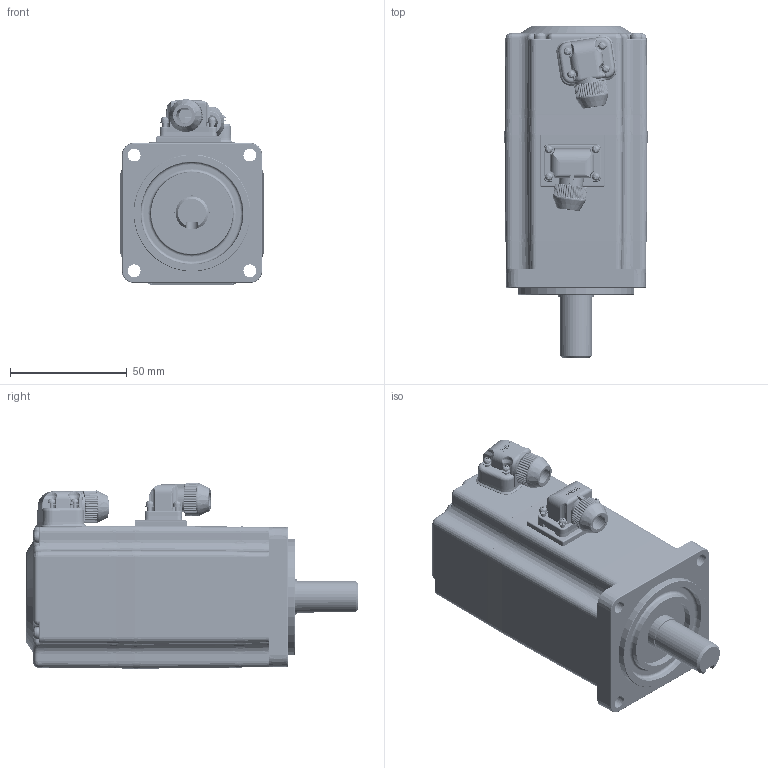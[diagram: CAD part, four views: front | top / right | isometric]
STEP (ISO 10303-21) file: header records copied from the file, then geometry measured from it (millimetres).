
FILE_DESCRIPTION((''),'2;1');
FILE_NAME('44444444444444','2017-05-26T',('Administrator'),(''),'PRO/ENGINEER BY PARAMETRIC TECHNOLOGY CORPORATION, 2010280','PRO/ENGINEER BY PARAMETRIC TECHNOLOGY CORPORATION, 2010280','');
FILE_SCHEMA(('CONFIG_CONTROL_DESIGN'));
Products named in the file (1): 44444444444444
Bounding box: 61.2 x 141.89 x 79.29 mm (x, y, z)
Volume: 296372.8 mm3; surface area: 66995.1 mm2
Topology: 38 solids, 64 shells, 7930 faces, 19944 edges, 11897 vertices
Faces by surface type: plane 4497, cylinder 1378, bspline 1106, cone 509, sphere 178, torus 166, extrusion 83, revolution 13
Entity records: 297407 total; most frequent: CARTESIAN_POINT 118885, ORIENTED_EDGE 39300, DIRECTION 32787, EDGE_CURVE 19764, VECTOR 12742, LINE 12659, VERTEX_POINT 11897, AXIS2_PLACEMENT_3D 10016
